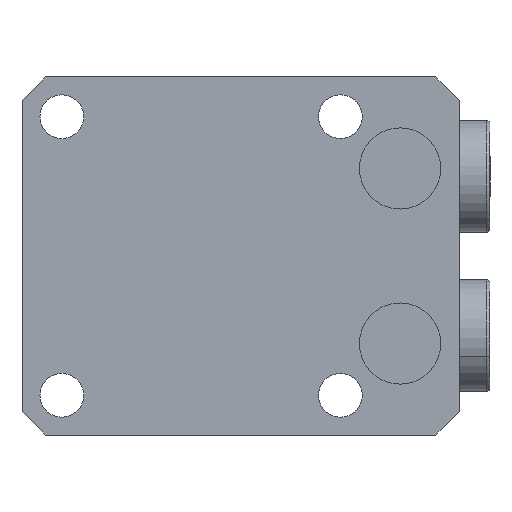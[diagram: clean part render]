
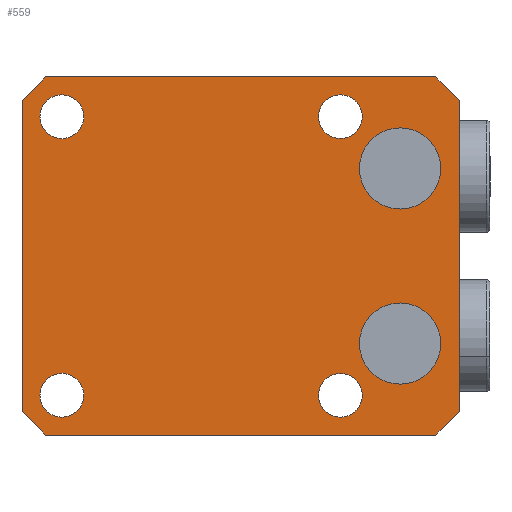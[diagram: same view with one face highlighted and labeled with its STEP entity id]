
A CAD part, front view. The second image highlights one B-rep face of the part: STEP entity #559.
In plain terms, the highlighted planar face has unit normal (0, -1, 0).
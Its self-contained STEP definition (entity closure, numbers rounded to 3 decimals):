
#199=PLANE('',#4720);
#284=FACE_BOUND('',#1057,.T.);
#285=FACE_BOUND('',#1058,.T.);
#286=FACE_BOUND('',#1059,.T.);
#287=FACE_BOUND('',#1060,.T.);
#288=FACE_BOUND('',#1061,.T.);
#289=FACE_BOUND('',#1062,.T.);
#290=FACE_BOUND('',#1063,.T.);
#559=ADVANCED_FACE('',(#284,#285,#286,#287,#288,#289,#290),#199,.T.);
#1057=EDGE_LOOP('',(#2510,#2511));
#1058=EDGE_LOOP('',(#2512,#2513));
#1059=EDGE_LOOP('',(#2514,#2515,#2516,#2517,#2518,#2519,#2520,#2521));
#1060=EDGE_LOOP('',(#2522,#2523));
#1061=EDGE_LOOP('',(#2524,#2525));
#1062=EDGE_LOOP('',(#2526,#2527));
#1063=EDGE_LOOP('',(#2528,#2529));
#1383=LINE('',#7103,#1735);
#1387=LINE('',#7123,#1739);
#1394=LINE('',#7142,#1746);
#1399=LINE('',#7158,#1751);
#1405=LINE('',#7183,#1757);
#1406=LINE('',#7184,#1758);
#1407=LINE('',#7185,#1759);
#1408=LINE('',#7186,#1760);
#1735=VECTOR('',#5626,1.);
#1739=VECTOR('',#5656,1.);
#1746=VECTOR('',#5665,1.);
#1751=VECTOR('',#5672,1.);
#1757=VECTOR('',#5684,1.);
#1758=VECTOR('',#5685,1.);
#1759=VECTOR('',#5686,1.);
#1760=VECTOR('',#5687,1.);
#2510=ORIENTED_EDGE('',*,*,#3931,.F.);
#2511=ORIENTED_EDGE('',*,*,#3804,.F.);
#2512=ORIENTED_EDGE('',*,*,#3932,.F.);
#2513=ORIENTED_EDGE('',*,*,#3808,.F.);
#2514=ORIENTED_EDGE('',*,*,#3933,.T.);
#2515=ORIENTED_EDGE('',*,*,#3897,.F.);
#2516=ORIENTED_EDGE('',*,*,#3934,.T.);
#2517=ORIENTED_EDGE('',*,*,#3917,.F.);
#2518=ORIENTED_EDGE('',*,*,#3935,.T.);
#2519=ORIENTED_EDGE('',*,*,#3923,.F.);
#2520=ORIENTED_EDGE('',*,*,#3936,.T.);
#2521=ORIENTED_EDGE('',*,*,#3909,.F.);
#2522=ORIENTED_EDGE('',*,*,#3907,.T.);
#2523=ORIENTED_EDGE('',*,*,#3842,.T.);
#2524=ORIENTED_EDGE('',*,*,#3903,.T.);
#2525=ORIENTED_EDGE('',*,*,#3850,.T.);
#2526=ORIENTED_EDGE('',*,*,#3901,.T.);
#2527=ORIENTED_EDGE('',*,*,#3854,.T.);
#2528=ORIENTED_EDGE('',*,*,#3905,.T.);
#2529=ORIENTED_EDGE('',*,*,#3846,.T.);
#3316=VERTEX_POINT('',#6895);
#3317=VERTEX_POINT('',#6897);
#3320=VERTEX_POINT('',#6904);
#3321=VERTEX_POINT('',#6906);
#3350=VERTEX_POINT('',#6984);
#3351=VERTEX_POINT('',#6985);
#3354=VERTEX_POINT('',#6993);
#3355=VERTEX_POINT('',#6994);
#3358=VERTEX_POINT('',#7002);
#3359=VERTEX_POINT('',#7003);
#3362=VERTEX_POINT('',#7011);
#3363=VERTEX_POINT('',#7012);
#3398=VERTEX_POINT('',#7102);
#3399=VERTEX_POINT('',#7104);
#3402=VERTEX_POINT('',#7124);
#3403=VERTEX_POINT('',#7125);
#3409=VERTEX_POINT('',#7143);
#3410=VERTEX_POINT('',#7144);
#3414=VERTEX_POINT('',#7157);
#3415=VERTEX_POINT('',#7159);
#3804=EDGE_CURVE('',#3316,#3317,#4313,.T.);
#3808=EDGE_CURVE('',#3320,#3321,#4315,.T.);
#3842=EDGE_CURVE('',#3350,#3351,#4329,.T.);
#3846=EDGE_CURVE('',#3354,#3355,#4331,.T.);
#3850=EDGE_CURVE('',#3358,#3359,#4333,.T.);
#3854=EDGE_CURVE('',#3362,#3363,#4335,.T.);
#3897=EDGE_CURVE('',#3398,#3399,#1383,.T.);
#3901=EDGE_CURVE('',#3363,#3362,#4337,.T.);
#3903=EDGE_CURVE('',#3359,#3358,#4339,.T.);
#3905=EDGE_CURVE('',#3355,#3354,#4341,.T.);
#3907=EDGE_CURVE('',#3351,#3350,#4343,.T.);
#3909=EDGE_CURVE('',#3402,#3403,#1387,.T.);
#3917=EDGE_CURVE('',#3409,#3410,#1394,.T.);
#3923=EDGE_CURVE('',#3414,#3415,#1399,.T.);
#3931=EDGE_CURVE('',#3317,#3316,#4345,.T.);
#3932=EDGE_CURVE('',#3321,#3320,#4346,.T.);
#3933=EDGE_CURVE('',#3402,#3399,#1405,.T.);
#3934=EDGE_CURVE('',#3398,#3410,#1406,.T.);
#3935=EDGE_CURVE('',#3409,#3415,#1407,.T.);
#3936=EDGE_CURVE('',#3414,#3403,#1408,.T.);
#4313=CIRCLE('',#4657,5.1);
#4315=CIRCLE('',#4660,5.1);
#4329=CIRCLE('',#4684,2.75);
#4331=CIRCLE('',#4687,2.75);
#4333=CIRCLE('',#4690,2.75);
#4335=CIRCLE('',#4693,2.75);
#4337=CIRCLE('',#4703,2.75);
#4339=CIRCLE('',#4706,2.75);
#4341=CIRCLE('',#4709,2.75);
#4343=CIRCLE('',#4712,2.75);
#4345=CIRCLE('',#4718,5.1);
#4346=CIRCLE('',#4719,5.1);
#4657=AXIS2_PLACEMENT_3D('',#6896,#5470,#5471);
#4660=AXIS2_PLACEMENT_3D('',#6905,#5478,#5479);
#4684=AXIS2_PLACEMENT_3D('',#6983,#5545,#5546);
#4687=AXIS2_PLACEMENT_3D('',#6992,#5553,#5554);
#4690=AXIS2_PLACEMENT_3D('',#7001,#5561,#5562);
#4693=AXIS2_PLACEMENT_3D('',#7010,#5569,#5570);
#4703=AXIS2_PLACEMENT_3D('',#7111,#5632,#5633);
#4706=AXIS2_PLACEMENT_3D('',#7114,#5638,#5639);
#4709=AXIS2_PLACEMENT_3D('',#7117,#5644,#5645);
#4712=AXIS2_PLACEMENT_3D('',#7120,#5650,#5651);
#4718=AXIS2_PLACEMENT_3D('',#7181,#5680,#5681);
#4719=AXIS2_PLACEMENT_3D('',#7182,#5682,#5683);
#4720=AXIS2_PLACEMENT_3D('',#7187,#5688,#5689);
#5470=DIRECTION('',(0.,-1.,0.));
#5471=DIRECTION('',(0.,0.,-1.));
#5478=DIRECTION('',(0.,-1.,0.));
#5479=DIRECTION('',(0.,0.,-1.));
#5545=DIRECTION('',(0.,1.,0.));
#5546=DIRECTION('',(0.,0.,-1.));
#5553=DIRECTION('',(0.,1.,0.));
#5554=DIRECTION('',(0.,0.,-1.));
#5561=DIRECTION('',(0.,1.,0.));
#5562=DIRECTION('',(0.,0.,-1.));
#5569=DIRECTION('',(0.,1.,0.));
#5570=DIRECTION('',(0.,0.,-1.));
#5626=DIRECTION('',(1.,0.,0.));
#5632=DIRECTION('',(0.,1.,0.));
#5633=DIRECTION('',(0.,0.,-1.));
#5638=DIRECTION('',(0.,1.,0.));
#5639=DIRECTION('',(0.,0.,-1.));
#5644=DIRECTION('',(0.,1.,0.));
#5645=DIRECTION('',(0.,0.,-1.));
#5650=DIRECTION('',(0.,1.,0.));
#5651=DIRECTION('',(0.,0.,-1.));
#5656=DIRECTION('',(0.,0.,-1.));
#5665=DIRECTION('',(0.,0.,1.));
#5672=DIRECTION('',(-1.,0.,0.));
#5680=DIRECTION('',(0.,-1.,0.));
#5681=DIRECTION('',(0.,0.,-1.));
#5682=DIRECTION('',(0.,-1.,0.));
#5683=DIRECTION('',(0.,0.,-1.));
#5684=DIRECTION('',(-0.707,0.,0.707));
#5685=DIRECTION('',(-0.707,0.,-0.707));
#5686=DIRECTION('',(0.707,0.,-0.707));
#5687=DIRECTION('',(0.707,0.,0.707));
#5688=DIRECTION('',(0.,-1.,0.));
#5689=DIRECTION('',(0.,0.,-1.));
#6895=CARTESIAN_POINT('',(-25.,-60.,-5.9));
#6896=CARTESIAN_POINT('',(-25.,-60.,-11.));
#6897=CARTESIAN_POINT('',(-25.,-60.,-16.1));
#6904=CARTESIAN_POINT('',(-25.,-60.,16.1));
#6905=CARTESIAN_POINT('',(-25.,-60.,11.));
#6906=CARTESIAN_POINT('',(-25.,-60.,5.9));
#6983=CARTESIAN_POINT('',(-17.5,-60.,-17.5));
#6984=CARTESIAN_POINT('',(-17.5,-60.,-20.25));
#6985=CARTESIAN_POINT('',(-17.5,-60.,-14.75));
#6992=CARTESIAN_POINT('',(17.5,-60.,17.5));
#6993=CARTESIAN_POINT('',(17.5,-60.,14.75));
#6994=CARTESIAN_POINT('',(17.5,-60.,20.25));
#7001=CARTESIAN_POINT('',(-17.5,-60.,17.5));
#7002=CARTESIAN_POINT('',(-17.5,-60.,14.75));
#7003=CARTESIAN_POINT('',(-17.5,-60.,20.25));
#7010=CARTESIAN_POINT('',(17.5,-60.,-17.5));
#7011=CARTESIAN_POINT('',(17.5,-60.,-20.25));
#7012=CARTESIAN_POINT('',(17.5,-60.,-14.75));
#7102=CARTESIAN_POINT('',(-29.5,-60.,22.5));
#7103=CARTESIAN_POINT('',(22.5,-60.,22.5));
#7104=CARTESIAN_POINT('',(19.5,-60.,22.5));
#7111=CARTESIAN_POINT('',(17.5,-60.,-17.5));
#7114=CARTESIAN_POINT('',(-17.5,-60.,17.5));
#7117=CARTESIAN_POINT('',(17.5,-60.,17.5));
#7120=CARTESIAN_POINT('',(-17.5,-60.,-17.5));
#7123=CARTESIAN_POINT('',(22.5,-60.,-22.5));
#7124=CARTESIAN_POINT('',(22.5,-60.,19.5));
#7125=CARTESIAN_POINT('',(22.5,-60.,-19.5));
#7142=CARTESIAN_POINT('',(-32.5,-60.,22.5));
#7143=CARTESIAN_POINT('',(-32.5,-60.,-19.5));
#7144=CARTESIAN_POINT('',(-32.5,-60.,19.5));
#7157=CARTESIAN_POINT('',(19.5,-60.,-22.5));
#7158=CARTESIAN_POINT('',(22.5,-60.,-22.5));
#7159=CARTESIAN_POINT('',(-29.5,-60.,-22.5));
#7181=CARTESIAN_POINT('',(-25.,-60.,-11.));
#7182=CARTESIAN_POINT('',(-25.,-60.,11.));
#7183=CARTESIAN_POINT('',(43.5,-60.,-1.5));
#7184=CARTESIAN_POINT('',(-26.,-60.,26.));
#7185=CARTESIAN_POINT('',(-3.5,-60.,-48.5));
#7186=CARTESIAN_POINT('',(21.,-60.,-21.));
#7187=CARTESIAN_POINT('',(22.5,-60.,-22.5));
